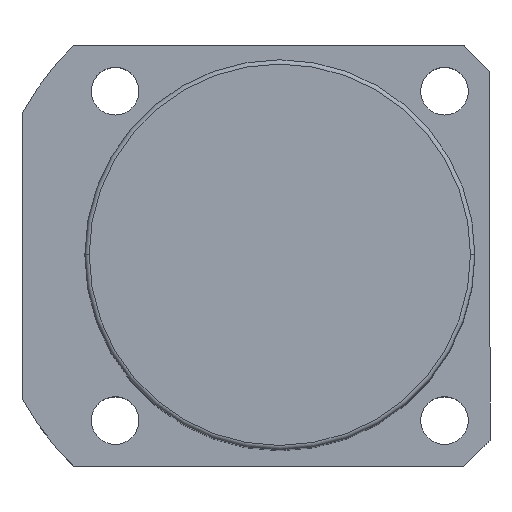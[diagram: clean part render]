
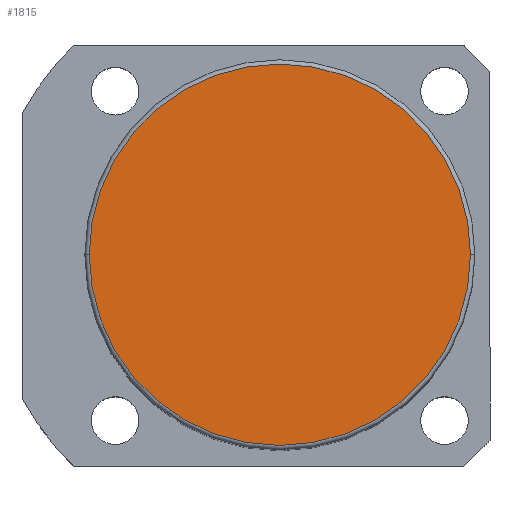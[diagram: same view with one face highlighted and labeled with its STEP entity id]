
A CAD part, top view. The second image highlights one B-rep face of the part: STEP entity #1815.
In plain terms, the highlighted planar face has unit normal (0, 0, 1).
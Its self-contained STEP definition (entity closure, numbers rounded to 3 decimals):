
#5 = AXIS2_PLACEMENT_3D ( 'NONE', #61, #1450, #1726 ) ;
#61 = CARTESIAN_POINT ( 'NONE',  ( 0., 0., 161.5 ) ) ;
#127 = ORIENTED_EDGE ( 'NONE', *, *, #933, .T. ) ;
#145 = CARTESIAN_POINT ( 'NONE',  ( 44., 0., 161.5 ) ) ;
#353 = ORIENTED_EDGE ( 'NONE', *, *, #493, .T. ) ;
#428 = DIRECTION ( 'NONE',  ( 0., 0., 1. ) ) ;
#493 = EDGE_CURVE ( 'NONE', #1305, #1618, #1101, .T. ) ;
#878 = FACE_OUTER_BOUND ( 'NONE', #1751, .T. ) ;
#927 = CIRCLE ( 'NONE', #1301, 44. ) ;
#933 = EDGE_CURVE ( 'NONE', #1618, #1305, #927, .T. ) ;
#937 = DIRECTION ( 'NONE',  ( 1., 0., 0. ) ) ;
#947 = PLANE ( 'NONE',  #1500 ) ;
#950 = CARTESIAN_POINT ( 'NONE',  ( -44., 0., 161.5 ) ) ;
#1075 = DIRECTION ( 'NONE',  ( 0., 0., 1. ) ) ;
#1101 = CIRCLE ( 'NONE', #5, 44. ) ;
#1119 = DIRECTION ( 'NONE',  ( 1., 0., 0. ) ) ;
#1276 = CARTESIAN_POINT ( 'NONE',  ( 0., 0., 161.5 ) ) ;
#1301 = AXIS2_PLACEMENT_3D ( 'NONE', #1276, #428, #1119 ) ;
#1305 = VERTEX_POINT ( 'NONE', #950 ) ;
#1450 = DIRECTION ( 'NONE',  ( 0., 0., 1. ) ) ;
#1500 = AXIS2_PLACEMENT_3D ( 'NONE', #1795, #1075, #937 ) ;
#1618 = VERTEX_POINT ( 'NONE', #145 ) ;
#1726 = DIRECTION ( 'NONE',  ( 1., 0., 0. ) ) ;
#1751 = EDGE_LOOP ( 'NONE', ( #127, #353 ) ) ;
#1795 = CARTESIAN_POINT ( 'NONE',  ( 0., 0., 161.5 ) ) ;
#1815 = ADVANCED_FACE ( 'NONE', ( #878 ), #947, .T. ) ;
